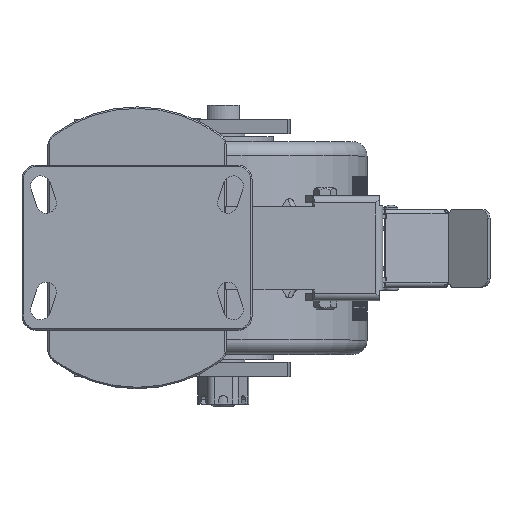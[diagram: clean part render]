
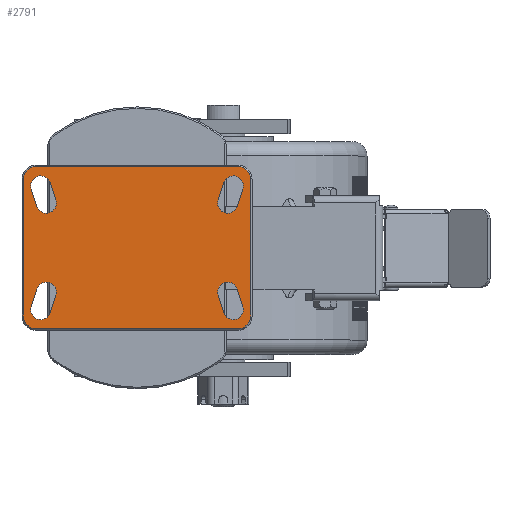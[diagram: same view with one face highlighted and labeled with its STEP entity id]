
A CAD part, top view. The second image highlights one B-rep face of the part: STEP entity #2791.
In plain terms, the highlighted planar face has unit normal (0, 0, 1).
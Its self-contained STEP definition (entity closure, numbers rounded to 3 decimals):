
#349=FACE_BOUND('',#5446,.T.);
#350=FACE_BOUND('',#5447,.T.);
#351=FACE_BOUND('',#5448,.T.);
#352=FACE_BOUND('',#5449,.T.);
#353=FACE_BOUND('',#5450,.T.);
#1632=PLANE('',#22770);
#2791=ADVANCED_FACE('',(#349,#350,#351,#352,#353),#1632,.T.);
#5446=EDGE_LOOP('',(#11732,#11733,#11734,#11735,#11736,#11737,#11738,#11739));
#5447=EDGE_LOOP('',(#11740,#11741,#11742,#11743));
#5448=EDGE_LOOP('',(#11744,#11745,#11746,#11747));
#5449=EDGE_LOOP('',(#11748,#11749,#11750,#11751));
#5450=EDGE_LOOP('',(#11752,#11753,#11754,#11755));
#6080=CIRCLE('',#22747,9.);
#6082=CIRCLE('',#22751,9.);
#6084=CIRCLE('',#22755,9.);
#6086=CIRCLE('',#22759,9.);
#6087=CIRCLE('',#22762,7.);
#6088=CIRCLE('',#22763,7.);
#6089=CIRCLE('',#22764,7.);
#6090=CIRCLE('',#22765,7.);
#6091=CIRCLE('',#22766,7.);
#6092=CIRCLE('',#22767,7.);
#6093=CIRCLE('',#22768,7.);
#6094=CIRCLE('',#22769,7.);
#11732=ORIENTED_EDGE('',*,*,#16825,.T.);
#11733=ORIENTED_EDGE('',*,*,#16828,.T.);
#11734=ORIENTED_EDGE('',*,*,#16831,.T.);
#11735=ORIENTED_EDGE('',*,*,#16834,.T.);
#11736=ORIENTED_EDGE('',*,*,#16836,.T.);
#11737=ORIENTED_EDGE('',*,*,#16816,.T.);
#11738=ORIENTED_EDGE('',*,*,#16819,.T.);
#11739=ORIENTED_EDGE('',*,*,#16822,.T.);
#11740=ORIENTED_EDGE('',*,*,#16837,.F.);
#11741=ORIENTED_EDGE('',*,*,#16838,.F.);
#11742=ORIENTED_EDGE('',*,*,#16839,.F.);
#11743=ORIENTED_EDGE('',*,*,#16840,.F.);
#11744=ORIENTED_EDGE('',*,*,#16841,.F.);
#11745=ORIENTED_EDGE('',*,*,#16842,.F.);
#11746=ORIENTED_EDGE('',*,*,#16843,.F.);
#11747=ORIENTED_EDGE('',*,*,#16844,.F.);
#11748=ORIENTED_EDGE('',*,*,#16845,.F.);
#11749=ORIENTED_EDGE('',*,*,#16846,.F.);
#11750=ORIENTED_EDGE('',*,*,#16847,.F.);
#11751=ORIENTED_EDGE('',*,*,#16848,.F.);
#11752=ORIENTED_EDGE('',*,*,#16849,.F.);
#11753=ORIENTED_EDGE('',*,*,#16850,.F.);
#11754=ORIENTED_EDGE('',*,*,#16851,.F.);
#11755=ORIENTED_EDGE('',*,*,#16852,.F.);
#13910=VERTEX_POINT('',#37057);
#13913=VERTEX_POINT('',#37062);
#13915=VERTEX_POINT('',#37068);
#13917=VERTEX_POINT('',#37074);
#13919=VERTEX_POINT('',#37080);
#13921=VERTEX_POINT('',#37086);
#13923=VERTEX_POINT('',#37092);
#13925=VERTEX_POINT('',#37098);
#13926=VERTEX_POINT('',#37105);
#13927=VERTEX_POINT('',#37106);
#13928=VERTEX_POINT('',#37108);
#13929=VERTEX_POINT('',#37110);
#13930=VERTEX_POINT('',#37113);
#13931=VERTEX_POINT('',#37114);
#13932=VERTEX_POINT('',#37116);
#13933=VERTEX_POINT('',#37118);
#13934=VERTEX_POINT('',#37121);
#13935=VERTEX_POINT('',#37122);
#13936=VERTEX_POINT('',#37124);
#13937=VERTEX_POINT('',#37126);
#13938=VERTEX_POINT('',#37129);
#13939=VERTEX_POINT('',#37130);
#13940=VERTEX_POINT('',#37132);
#13941=VERTEX_POINT('',#37134);
#16816=EDGE_CURVE('',#13910,#13913,#6080,.T.);
#16819=EDGE_CURVE('',#13913,#13915,#18950,.T.);
#16822=EDGE_CURVE('',#13915,#13917,#6082,.T.);
#16825=EDGE_CURVE('',#13917,#13919,#18954,.T.);
#16828=EDGE_CURVE('',#13919,#13921,#6084,.T.);
#16831=EDGE_CURVE('',#13921,#13923,#18958,.T.);
#16834=EDGE_CURVE('',#13923,#13925,#6086,.T.);
#16836=EDGE_CURVE('',#13925,#13910,#18961,.T.);
#16837=EDGE_CURVE('',#13926,#13927,#18962,.T.);
#16838=EDGE_CURVE('',#13928,#13926,#6087,.T.);
#16839=EDGE_CURVE('',#13929,#13928,#18963,.T.);
#16840=EDGE_CURVE('',#13927,#13929,#6088,.T.);
#16841=EDGE_CURVE('',#13930,#13931,#18964,.T.);
#16842=EDGE_CURVE('',#13932,#13930,#6089,.T.);
#16843=EDGE_CURVE('',#13933,#13932,#18965,.T.);
#16844=EDGE_CURVE('',#13931,#13933,#6090,.T.);
#16845=EDGE_CURVE('',#13934,#13935,#6091,.T.);
#16846=EDGE_CURVE('',#13936,#13934,#18966,.T.);
#16847=EDGE_CURVE('',#13937,#13936,#6092,.T.);
#16848=EDGE_CURVE('',#13935,#13937,#18967,.T.);
#16849=EDGE_CURVE('',#13938,#13939,#6093,.T.);
#16850=EDGE_CURVE('',#13940,#13938,#18968,.T.);
#16851=EDGE_CURVE('',#13941,#13940,#6094,.T.);
#16852=EDGE_CURVE('',#13939,#13941,#18969,.T.);
#18950=LINE('',#37069,#20989);
#18954=LINE('',#37081,#20993);
#18958=LINE('',#37093,#20997);
#18961=LINE('',#37102,#21000);
#18962=LINE('',#37104,#21001);
#18963=LINE('',#37109,#21002);
#18964=LINE('',#37112,#21003);
#18965=LINE('',#37117,#21004);
#18966=LINE('',#37123,#21005);
#18967=LINE('',#37127,#21006);
#18968=LINE('',#37131,#21007);
#18969=LINE('',#37135,#21008);
#20989=VECTOR('',#28164,1.);
#20993=VECTOR('',#28176,1.);
#20997=VECTOR('',#28188,1.);
#21000=VECTOR('',#28199,1.);
#21001=VECTOR('',#28202,1.);
#21002=VECTOR('',#28205,1.);
#21003=VECTOR('',#28208,1.);
#21004=VECTOR('',#28211,1.);
#21005=VECTOR('',#28216,1.);
#21006=VECTOR('',#28219,1.);
#21007=VECTOR('',#28222,1.);
#21008=VECTOR('',#28225,1.);
#22747=AXIS2_PLACEMENT_3D('',#37063,#28158,#28159);
#22751=AXIS2_PLACEMENT_3D('',#37075,#28170,#28171);
#22755=AXIS2_PLACEMENT_3D('',#37087,#28182,#28183);
#22759=AXIS2_PLACEMENT_3D('',#37099,#28194,#28195);
#22762=AXIS2_PLACEMENT_3D('',#37107,#28203,#28204);
#22763=AXIS2_PLACEMENT_3D('',#37111,#28206,#28207);
#22764=AXIS2_PLACEMENT_3D('',#37115,#28209,#28210);
#22765=AXIS2_PLACEMENT_3D('',#37119,#28212,#28213);
#22766=AXIS2_PLACEMENT_3D('',#37120,#28214,#28215);
#22767=AXIS2_PLACEMENT_3D('',#37125,#28217,#28218);
#22768=AXIS2_PLACEMENT_3D('',#37128,#28220,#28221);
#22769=AXIS2_PLACEMENT_3D('',#37133,#28223,#28224);
#22770=AXIS2_PLACEMENT_3D('',#37136,#28226,#28227);
#28158=DIRECTION('',(0.,0.,1.));
#28159=DIRECTION('',(-1.,0.,0.));
#28164=DIRECTION('',(1.,0.,0.));
#28170=DIRECTION('',(0.,0.,1.));
#28171=DIRECTION('',(0.,-1.,0.));
#28176=DIRECTION('',(0.,1.,0.));
#28182=DIRECTION('',(0.,0.,1.));
#28183=DIRECTION('',(1.,0.,0.));
#28188=DIRECTION('',(-1.,0.,0.));
#28194=DIRECTION('',(0.,0.,1.));
#28195=DIRECTION('',(0.,1.,0.));
#28199=DIRECTION('',(0.,-1.,0.));
#28202=DIRECTION('',(-0.316,-0.949,0.));
#28203=DIRECTION('',(0.,0.,1.));
#28204=DIRECTION('',(0.949,-0.316,0.));
#28205=DIRECTION('',(0.316,0.949,0.));
#28206=DIRECTION('',(0.,0.,1.));
#28207=DIRECTION('',(-0.949,0.316,0.));
#28208=DIRECTION('',(0.316,0.949,0.));
#28209=DIRECTION('',(0.,0.,1.));
#28210=DIRECTION('',(-0.949,0.316,0.));
#28211=DIRECTION('',(-0.316,-0.949,0.));
#28212=DIRECTION('',(0.,0.,1.));
#28213=DIRECTION('',(0.949,-0.316,0.));
#28214=DIRECTION('',(0.,0.,1.));
#28215=DIRECTION('',(-0.949,-0.316,0.));
#28216=DIRECTION('',(0.316,-0.949,0.));
#28217=DIRECTION('',(0.,0.,1.));
#28218=DIRECTION('',(0.949,0.316,0.));
#28219=DIRECTION('',(-0.316,0.949,0.));
#28220=DIRECTION('',(0.,0.,1.));
#28221=DIRECTION('',(0.949,0.316,0.));
#28222=DIRECTION('',(-0.316,0.949,0.));
#28223=DIRECTION('',(0.,0.,1.));
#28224=DIRECTION('',(-0.949,-0.316,0.));
#28225=DIRECTION('',(0.316,-0.949,0.));
#28226=DIRECTION('',(0.,0.,1.));
#28227=DIRECTION('',(-1.,0.,0.));
#37057=CARTESIAN_POINT('',(-79.,-47.5,0.));
#37062=CARTESIAN_POINT('',(-70.,-56.5,0.));
#37063=CARTESIAN_POINT('',(-70.,-47.5,0.));
#37068=CARTESIAN_POINT('',(70.,-56.5,0.));
#37069=CARTESIAN_POINT('',(-70.,-56.5,0.));
#37074=CARTESIAN_POINT('',(79.,-47.5,0.));
#37075=CARTESIAN_POINT('',(70.,-47.5,0.));
#37080=CARTESIAN_POINT('',(79.,47.5,0.));
#37081=CARTESIAN_POINT('',(79.,-47.5,0.));
#37086=CARTESIAN_POINT('',(70.,56.5,0.));
#37087=CARTESIAN_POINT('',(70.,47.5,0.));
#37092=CARTESIAN_POINT('',(-70.,56.5,0.));
#37093=CARTESIAN_POINT('',(70.,56.5,0.));
#37098=CARTESIAN_POINT('',(-79.,47.5,0.));
#37099=CARTESIAN_POINT('',(-70.,47.5,0.));
#37102=CARTESIAN_POINT('',(-79.,47.5,0.));
#37104=CARTESIAN_POINT('',(-69.641,-28.786,0.));
#37105=CARTESIAN_POINT('',(-69.641,-28.786,0.));
#37106=CARTESIAN_POINT('',(-73.641,-40.786,0.));
#37107=CARTESIAN_POINT('',(-63.,-31.,0.));
#37108=CARTESIAN_POINT('',(-56.359,-33.214,0.));
#37109=CARTESIAN_POINT('',(-60.359,-45.214,0.));
#37110=CARTESIAN_POINT('',(-60.359,-45.214,0.));
#37111=CARTESIAN_POINT('',(-67.,-43.,0.));
#37112=CARTESIAN_POINT('',(69.641,28.786,0.));
#37113=CARTESIAN_POINT('',(69.641,28.786,0.));
#37114=CARTESIAN_POINT('',(73.641,40.786,0.));
#37115=CARTESIAN_POINT('',(63.,31.,0.));
#37116=CARTESIAN_POINT('',(56.359,33.214,0.));
#37117=CARTESIAN_POINT('',(60.359,45.214,0.));
#37118=CARTESIAN_POINT('',(60.359,45.214,0.));
#37119=CARTESIAN_POINT('',(67.,43.,0.));
#37120=CARTESIAN_POINT('',(67.,-43.,0.));
#37121=CARTESIAN_POINT('',(60.359,-45.214,0.));
#37122=CARTESIAN_POINT('',(73.641,-40.786,0.));
#37123=CARTESIAN_POINT('',(56.359,-33.214,0.));
#37124=CARTESIAN_POINT('',(56.359,-33.214,0.));
#37125=CARTESIAN_POINT('',(63.,-31.,0.));
#37126=CARTESIAN_POINT('',(69.641,-28.786,0.));
#37127=CARTESIAN_POINT('',(73.641,-40.786,0.));
#37128=CARTESIAN_POINT('',(-67.,43.,0.));
#37129=CARTESIAN_POINT('',(-60.359,45.214,0.));
#37130=CARTESIAN_POINT('',(-73.641,40.786,0.));
#37131=CARTESIAN_POINT('',(-56.359,33.214,0.));
#37132=CARTESIAN_POINT('',(-56.359,33.214,0.));
#37133=CARTESIAN_POINT('',(-63.,31.,0.));
#37134=CARTESIAN_POINT('',(-69.641,28.786,0.));
#37135=CARTESIAN_POINT('',(-73.641,40.786,0.));
#37136=CARTESIAN_POINT('',(0.,0.,0.));
